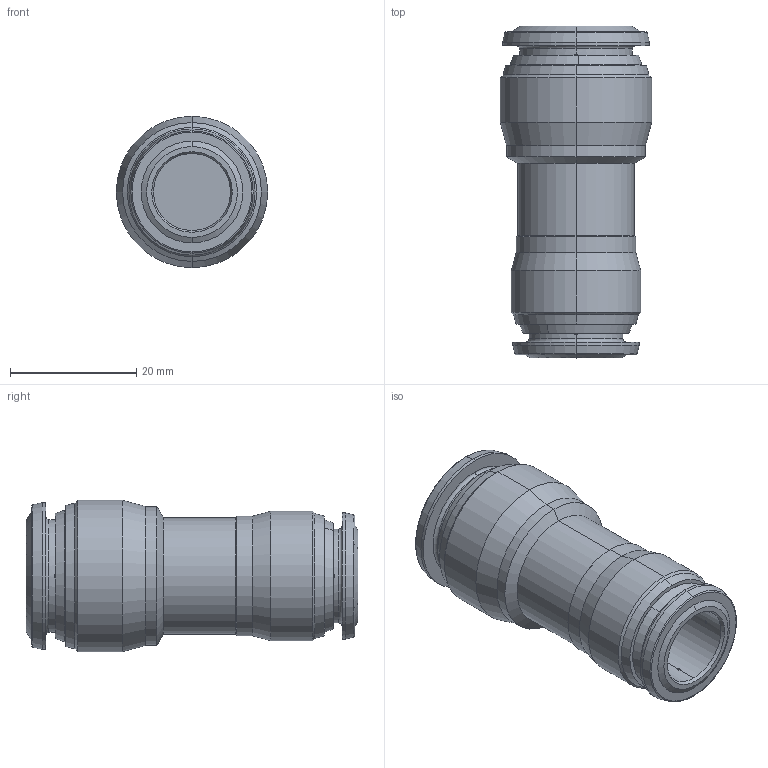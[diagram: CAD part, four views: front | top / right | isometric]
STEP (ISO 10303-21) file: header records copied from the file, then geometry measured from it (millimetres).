
FILE_DESCRIPTION (( 'STEP AP214' ), '1' );
FILE_NAME ('6004000012.STEP', '2022-07-07T09:49:01', ( '' ), ( '' ), 'SwSTEP 2.0', 'SolidWorks 2020', '' );
FILE_SCHEMA (( 'AUTOMOTIVE_DESIGN' ));
Length unit declared in the file: millimetre
Products named in the file (1): 6004000012
Bounding box: 24 x 52.6 x 24 mm (x, y, z)
Volume: 9910.9 mm3; surface area: 6669.4 mm2
Topology: 1 solids, 1 shells, 102 faces, 266 edges, 164 vertices
Faces by surface type: cone 36, plane 36, cylinder 22, torus 8
Entity records: 4316 total; most frequent: DIRECTION 612, CARTESIAN_POINT 533, ORIENTED_EDGE 532, EDGE_CURVE 266, AXIS2_PLACEMENT_3D 243, VERTEX_POINT 164, CIRCLE 140, VECTOR 126
